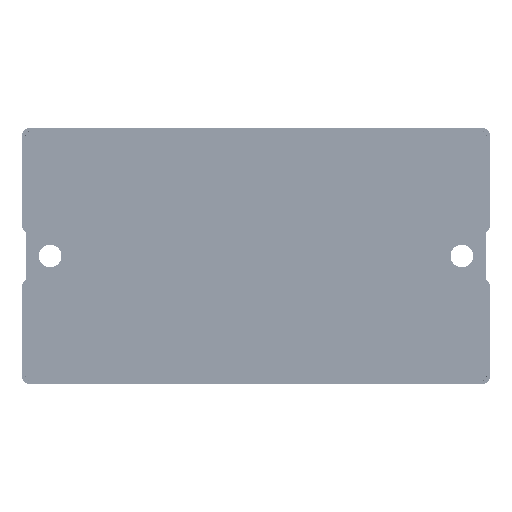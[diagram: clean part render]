
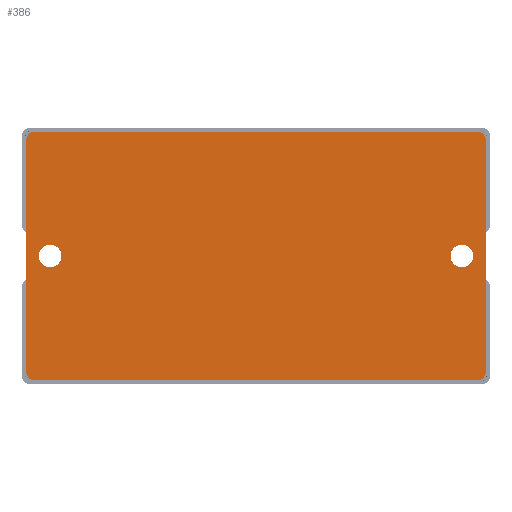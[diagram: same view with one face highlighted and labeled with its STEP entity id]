
A CAD part, front view. The second image highlights one B-rep face of the part: STEP entity #386.
In plain terms, the highlighted planar face has unit normal (0, -1, 0).
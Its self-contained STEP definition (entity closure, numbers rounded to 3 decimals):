
#143=CARTESIAN_POINT('',(-49.7,0.,0.));
#144=DIRECTION('',(0.,1.,0.));
#145=DIRECTION('',(1.,0.,0.));
#146=AXIS2_PLACEMENT_3D('',#143,#144,#145);
#148=CARTESIAN_POINT('',(-49.7,0.,0.));
#149=DIRECTION('',(0.,1.,0.));
#150=DIRECTION('',(-1.,0.,0.));
#151=AXIS2_PLACEMENT_3D('',#148,#149,#150);
#153=CARTESIAN_POINT('',(49.7,0.,0.));
#154=DIRECTION('',(0.,1.,0.));
#155=DIRECTION('',(1.,0.,0.));
#156=AXIS2_PLACEMENT_3D('',#153,#154,#155);
#158=CARTESIAN_POINT('',(49.7,0.,0.));
#159=DIRECTION('',(0.,1.,0.));
#160=DIRECTION('',(-1.,0.,0.));
#161=AXIS2_PLACEMENT_3D('',#158,#159,#160);
#163=CARTESIAN_POINT('',(-53.5,0.,28.));
#164=DIRECTION('',(0.,-1.,0.));
#165=DIRECTION('',(0.,0.,1.));
#166=AXIS2_PLACEMENT_3D('',#163,#164,#165);
#168=DIRECTION('',(1.,0.,0.));
#169=VECTOR('',#168,107.);
#170=CARTESIAN_POINT('',(-53.5,0.,30.));
#171=LINE('',#170,#169);
#172=CARTESIAN_POINT('',(53.5,0.,28.));
#173=DIRECTION('',(0.,-1.,0.));
#174=DIRECTION('',(1.,0.,0.));
#175=AXIS2_PLACEMENT_3D('',#172,#173,#174);
#177=DIRECTION('',(0.,0.,-1.));
#178=VECTOR('',#177,56.);
#179=CARTESIAN_POINT('',(55.5,0.,28.));
#180=LINE('',#179,#178);
#181=CARTESIAN_POINT('',(53.5,0.,-28.));
#182=DIRECTION('',(0.,-1.,0.));
#183=DIRECTION('',(0.,0.,-1.));
#184=AXIS2_PLACEMENT_3D('',#181,#182,#183);
#186=DIRECTION('',(-1.,0.,0.));
#187=VECTOR('',#186,107.);
#188=CARTESIAN_POINT('',(53.5,0.,-30.));
#189=LINE('',#188,#187);
#190=CARTESIAN_POINT('',(-53.5,0.,-28.));
#191=DIRECTION('',(0.,-1.,0.));
#192=DIRECTION('',(-1.,0.,0.));
#193=AXIS2_PLACEMENT_3D('',#190,#191,#192);
#195=DIRECTION('',(0.,0.,1.));
#196=VECTOR('',#195,56.);
#197=CARTESIAN_POINT('',(-55.5,0.,-28.));
#198=LINE('',#197,#196);
#303=CARTESIAN_POINT('',(-46.95,0.,0.));
#304=CARTESIAN_POINT('',(-52.45,0.,0.));
#305=VERTEX_POINT('',#303);
#306=VERTEX_POINT('',#304);
#307=CARTESIAN_POINT('',(52.45,0.,0.));
#308=CARTESIAN_POINT('',(46.95,0.,0.));
#309=VERTEX_POINT('',#307);
#310=VERTEX_POINT('',#308);
#319=CARTESIAN_POINT('',(-53.5,0.,30.));
#320=CARTESIAN_POINT('',(-55.5,0.,28.));
#321=VERTEX_POINT('',#319);
#322=VERTEX_POINT('',#320);
#327=CARTESIAN_POINT('',(-55.5,0.,-28.));
#328=CARTESIAN_POINT('',(-53.5,0.,-30.));
#329=VERTEX_POINT('',#327);
#330=VERTEX_POINT('',#328);
#335=CARTESIAN_POINT('',(55.5,0.,28.));
#336=CARTESIAN_POINT('',(53.5,0.,30.));
#337=VERTEX_POINT('',#335);
#338=VERTEX_POINT('',#336);
#343=CARTESIAN_POINT('',(53.5,0.,-30.));
#344=CARTESIAN_POINT('',(55.5,0.,-28.));
#345=VERTEX_POINT('',#343);
#346=VERTEX_POINT('',#344);
#351=CARTESIAN_POINT('',(0.,0.,0.));
#352=DIRECTION('',(0.,1.,0.));
#353=DIRECTION('',(1.,0.,0.));
#354=AXIS2_PLACEMENT_3D('',#351,#352,#353);
#355=PLANE('',#354);
#357=ORIENTED_EDGE('',*,*,#356,.F.);
#359=ORIENTED_EDGE('',*,*,#358,.T.);
#361=ORIENTED_EDGE('',*,*,#360,.F.);
#363=ORIENTED_EDGE('',*,*,#362,.T.);
#365=ORIENTED_EDGE('',*,*,#364,.F.);
#367=ORIENTED_EDGE('',*,*,#366,.T.);
#369=ORIENTED_EDGE('',*,*,#368,.F.);
#371=ORIENTED_EDGE('',*,*,#370,.T.);
#372=EDGE_LOOP('',(#357,#359,#361,#363,#365,#367,#369,#371));
#373=FACE_OUTER_BOUND('',#372,.F.);
#375=ORIENTED_EDGE('',*,*,#374,.F.);
#377=ORIENTED_EDGE('',*,*,#376,.F.);
#378=EDGE_LOOP('',(#375,#377));
#379=FACE_BOUND('',#378,.F.);
#381=ORIENTED_EDGE('',*,*,#380,.F.);
#383=ORIENTED_EDGE('',*,*,#382,.F.);
#384=EDGE_LOOP('',(#381,#383));
#385=FACE_BOUND('',#384,.F.);
#386=ADVANCED_FACE('',(#373,#379,#385),#355,.F.);
#147=CIRCLE('',#146,2.75);
#152=CIRCLE('',#151,2.75);
#157=CIRCLE('',#156,2.75);
#162=CIRCLE('',#161,2.75);
#167=CIRCLE('',#166,2.);
#176=CIRCLE('',#175,2.);
#185=CIRCLE('',#184,2.);
#194=CIRCLE('',#193,2.);
#356=EDGE_CURVE('',#321,#322,#167,.T.);
#358=EDGE_CURVE('',#321,#338,#171,.T.);
#360=EDGE_CURVE('',#337,#338,#176,.T.);
#362=EDGE_CURVE('',#337,#346,#180,.T.);
#364=EDGE_CURVE('',#345,#346,#185,.T.);
#366=EDGE_CURVE('',#345,#330,#189,.T.);
#368=EDGE_CURVE('',#329,#330,#194,.T.);
#370=EDGE_CURVE('',#329,#322,#198,.T.);
#374=EDGE_CURVE('',#309,#310,#157,.T.);
#376=EDGE_CURVE('',#310,#309,#162,.T.);
#380=EDGE_CURVE('',#305,#306,#147,.T.);
#382=EDGE_CURVE('',#306,#305,#152,.T.);
